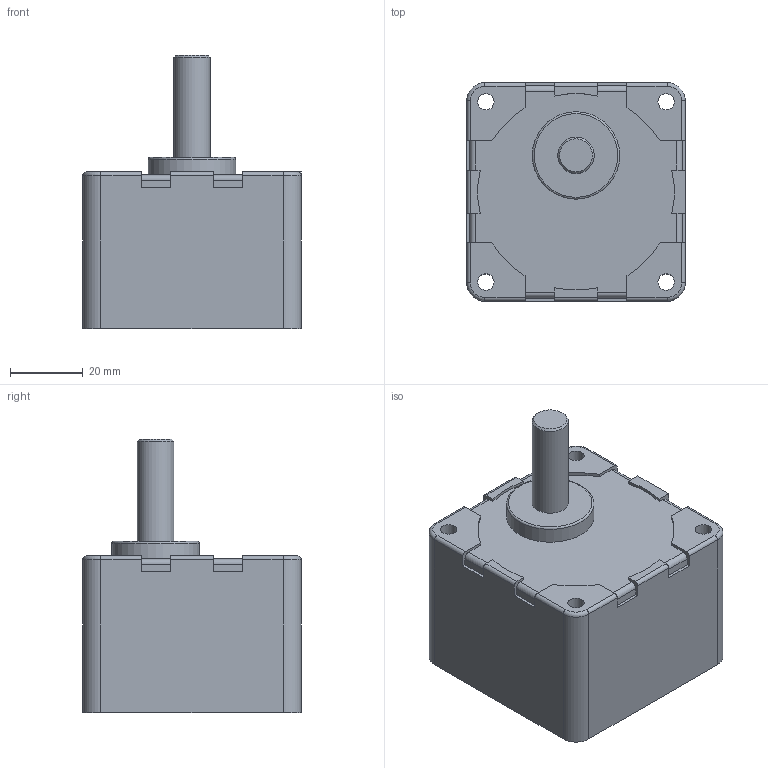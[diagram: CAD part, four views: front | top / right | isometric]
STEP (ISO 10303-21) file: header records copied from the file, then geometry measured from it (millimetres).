
FILE_DESCRIPTION(/* description */ (''),/* implementation_level */ '2;1');
FILE_NAME(/* name */ 'E:\도면작업\2016\0704) 미주향 SG 도면\3D GEAR HEAD\SG6SA150~360.stp',/* time_stamp */ '2016-07-22T14:01:37+09:00',/* author */ ('jy-jung'),/* organization */ (''),/* preprocessor_version */ 'ST-DEVELOPER v15.6',/* originating_system */ 'Autodesk Inventor 2015',/* authorisation */ '');
FILE_SCHEMA (('AUTOMOTIVE_DESIGN { 1 0 10303 214 3 1 1 }'));
Length unit declared in the file: millimetre
Products named in the file (1): SG6SA150~360
Bounding box: 60 x 60 x 75 mm (x, y, z)
Volume: 147455.1 mm3; surface area: 21259.7 mm2
Topology: 1 solids, 1 shells, 97 faces, 262 edges, 171 vertices
Faces by surface type: plane 50, cylinder 39, torus 5, cone 3
Full cylindrical faces by diameter (mm): 4.5 x4, 5.7 x1, 10 x1, 24 x1, 54 x1
Entity records: 3025 total; most frequent: DIRECTION 531, CARTESIAN_POINT 517, ORIENTED_EDGE 498, EDGE_CURVE 249, AXIS2_PLACEMENT_3D 184, VERTEX_POINT 170, LINE 163, VECTOR 163
